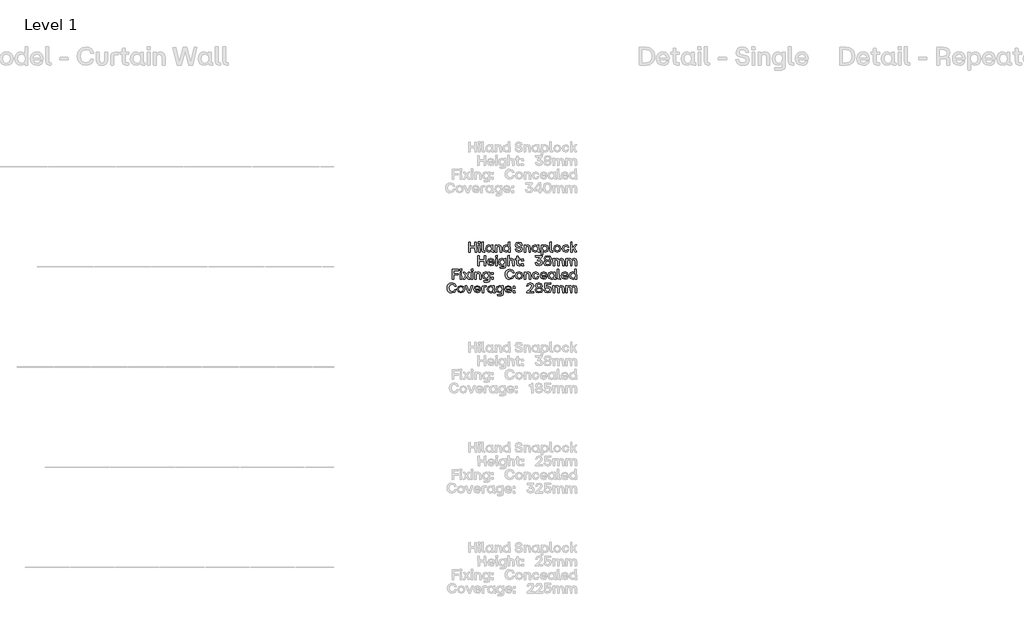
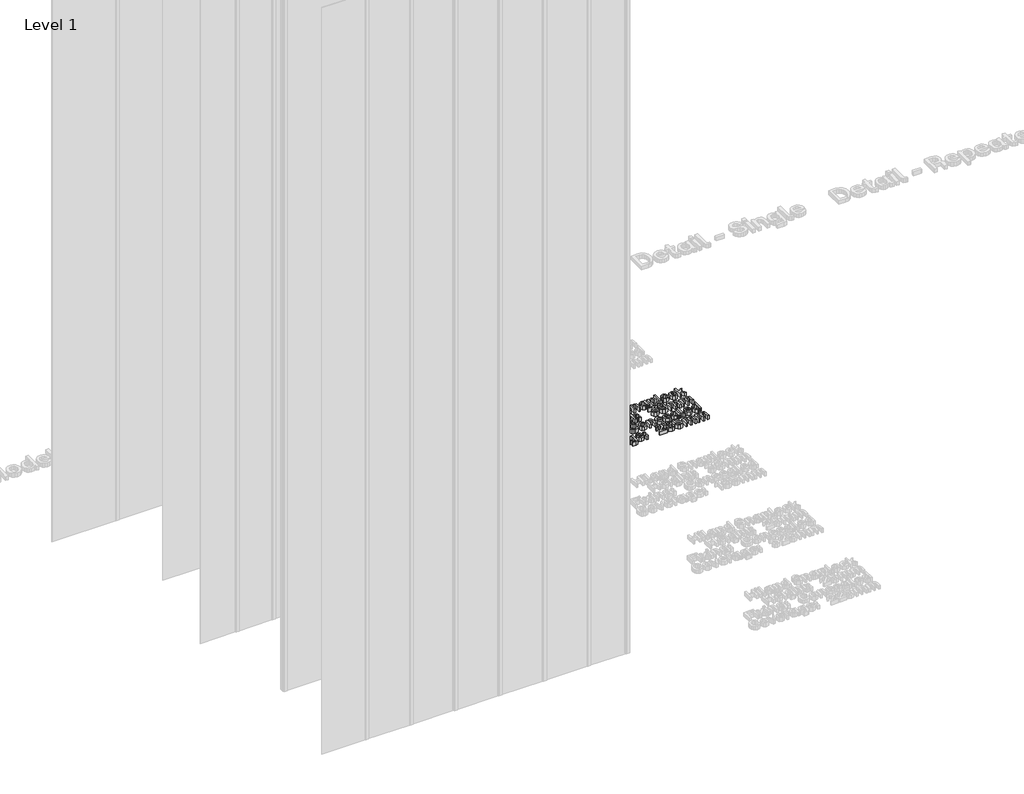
# One storey, part 21 of 64: 1 proxy.
"""IFC4 building model written with IfcOpenShell, lengths in millimetres."""

from ifc_helpers import new_model, si_unit, origin, origin_with_axes, place, context, project, spatial, polyline, outline, extrude, element, save

model = new_model("IFC4")

# Units and contexts
model_context = context("Model", 3, world=origin())
ifc_project = project(units=[si_unit("LENGTHUNIT", "METRE", prefix="MILLI")], contexts=[model_context])

# Site, building, storey
site = spatial("IfcSite", under=ifc_project)
building = spatial("IfcBuilding", under=site)
storey = spatial("IfcBuildingStorey", under=building, Name="Level 1", Elevation=0.0)

# Proxy
placement = place(None, origin())
element("IfcBuildingElementProxy", 1, Name="50mm", ObjectType="50mm", at=placement, inside=storey, context=model_context, shape_type="SweptSolid", body=[
    extrude(outline(polyline([(2488.8278866, -7433.5188866), (2488.1305548, -7411.5808277), (2464.2818068, -7411.5808277), (2464.2818068, -7432.8215548), (2456.7785164, -7433.5188866), (2456.0532913, -7384.2454206), (2463.542635, -7383.5201955), (2464.2818068, -7404.6075096), (2488.1305548, -7404.6075096), (2488.1305548, -7384.2454206), (2495.6198985, -7383.5201955), (2496.3172303, -7432.8215548), (2488.8278866, -7433.5188866)])), origin_with_axes(), (0.0, 0.0, 1.0), 20.0),
    extrude(outline(polyline([(2506.414595, -7433.5188866), (2505.6893699, -7397.8154977), (2512.8997809, -7397.1181659), (2513.5971127, -7432.8215548), (2506.414595, -7433.5188866)])), origin_with_axes(), (0.0, 0.0, 1.0), 20.0),
    extrude(outline(polyline([(2505.4801704, -7390.4516737), (2505.1315045, -7382.4044646), (2513.5273795, -7381.6652929), (2514.2665512, -7390.1030078), (2505.4801704, -7390.4516737)])), origin_with_axes(), (0.0, 0.0, 1.0), 20.0),
    extrude(outline(polyline([(2532.9968838, -7433.5188866), (2525.2983405, -7430.8690257), (2522.6484796, -7423.1565359), (2522.6484796, -7382.8228637), (2529.8588906, -7382.083692), (2530.5562224, -7427.2429003), (2537.2227146, -7427.2429003), (2537.9200464, -7432.8215548), (2532.9968838, -7433.5188866)])), origin_with_axes(), (0.0, 0.0, 1.0), 20.0),
    extrude(outline(polyline([(2558.0868825, -7433.9372857), (2546.3159214, -7428.8955767), (2541.9366776, -7415.3882594), (2546.3159214, -7401.7484491), (2558.0868825, -7396.6579269), (2564.7045614, -7398.2617901), (2569.6904839, -7402.6549805), (2570.0112565, -7397.8154977), (2577.1937742, -7397.1181659), (2577.9189993, -7427.2429003), (2581.8658973, -7427.2429003), (2582.5632291, -7432.8215548), (2576.5661755, -7433.5188866), (2571.9114857, -7432.2113895), (2570.3599224, -7428.288898), (2565.0044141, -7432.3334225), (2558.0868825, -7433.9372857)]), holes=[polyline([(2549.9978334, -7415.3882594), (2552.7522941, -7424.2792401), (2560.2765044, -7427.521833), (2567.6403283, -7424.2931867), (2570.2901892, -7415.3882594), (2567.6194084, -7406.392679), (2560.2765044, -7403.1152195), (2552.7522941, -7406.392679), (2549.9978334, -7415.3882594)])]), origin_with_axes(), (0.0, 0.0, 1.0), 20.0),
    extrude(outline(polyline([(2589.4249742, -7433.5188866), (2588.6997491, -7397.8154977), (2595.5614942, -7397.1181659), (2596.258826, -7402.6549805), (2601.4225681, -7398.1571903), (2608.0437337, -7396.6579269), (2617.6041528, -7400.8419178), (2620.916479, -7413.0870644), (2620.916479, -7432.8215548), (2613.6921214, -7433.5188866), (2612.9668963, -7413.0870644), (2611.0143672, -7405.7092939), (2604.8429806, -7403.3941522), (2598.6158075, -7405.7441604), (2596.6074919, -7413.0870644), (2596.6074919, -7432.8215548), (2589.4249742, -7433.5188866)])), origin_with_axes(), (0.0, 0.0, 1.0), 20.0),
    extrude(outline(polyline([(2643.7750158, -7433.9372857), (2632.0040548, -7428.8955767), (2627.624811, -7415.3882594), (2632.0040548, -7401.7484491), (2643.7750158, -7396.6579269), (2650.3926948, -7398.2617901), (2655.3786172, -7402.6549805), (2655.6993899, -7382.8228637), (2662.8819076, -7382.083692), (2663.6071326, -7432.8215548), (2656.7453876, -7433.5188866), (2656.0480558, -7428.0099653), (2650.6925474, -7432.3334225), (2643.7750158, -7433.9372857)]), holes=[polyline([(2635.6859668, -7415.3882594), (2638.4404275, -7424.2792401), (2645.9646377, -7427.521833), (2653.3284617, -7424.2931867), (2655.9783226, -7415.3882594), (2653.3075417, -7406.392679), (2645.9646377, -7403.1152195), (2638.4404275, -7406.392679), (2635.6859668, -7415.3882594)])]), origin_with_axes(), (0.0, 0.0, 1.0), 20.0),
    extrude(outline(polyline([(2707.7621831, -7433.9372857), (2694.1781594, -7429.823028), (2688.1950524, -7418.1078535), (2695.5588764, -7417.2989486), (2699.7219473, -7424.9417053), (2707.7621831, -7427.1034339), (2714.7145813, -7425.1160383), (2717.2040559, -7419.6001436), (2715.4816463, -7415.0186736), (2709.7147122, -7412.7383985), (2703.1179533, -7411.5808277), (2692.6370561, -7406.8180514), (2689.1434237, -7397.4668318), (2693.6202939, -7386.9022548), (2706.1164801, -7383.1017964), (2718.7102926, -7386.951068), (2724.3168404, -7397.8154977), (2716.9948564, -7398.610456), (2712.9712518, -7391.8672573), (2706.1164801, -7389.9635415), (2699.582481, -7391.706871), (2697.3300992, -7396.7973933), (2699.3384148, -7401.6299027), (2705.6283478, -7404.1612172), (2712.1832668, -7405.3048414), (2722.2806315, -7409.8932847), (2725.4046781, -7419.4606772), (2720.7116349, -7430.1019607), (2707.7621831, -7433.9372857)])), origin_with_axes(), (0.0, 0.0, 1.0), 20.0),
    extrude(outline(polyline([(2734.0236993, -7433.5188866), (2733.2984742, -7397.8154977), (2740.1602192, -7397.1181659), (2740.8575511, -7402.6549805), (2746.0212931, -7398.1571903), (2752.6424587, -7396.6579269), (2762.2028779, -7400.8419178), (2765.515204, -7413.0870644), (2765.515204, -7432.8215548), (2758.2908464, -7433.5188866), (2757.5656213, -7413.0870644), (2755.6130923, -7405.7092939), (2749.4417057, -7403.3941522), (2743.2145326, -7405.7441604), (2741.206217, -7413.0870644), (2741.206217, -7432.8215548), (2734.0236993, -7433.5188866)])), origin_with_axes(), (0.0, 0.0, 1.0), 20.0),
    extrude(outline(polyline([(2788.3737409, -7433.9372857), (2776.6027799, -7428.8955767), (2772.2235361, -7415.3882594), (2776.6027799, -7401.7484491), (2788.3737409, -7396.6579269), (2794.9914198, -7398.2617901), (2799.9773423, -7402.6549805), (2800.2981149, -7397.8154977), (2807.4806326, -7397.1181659), (2808.2058577, -7427.2429003), (2812.1527558, -7427.2429003), (2812.8500876, -7432.8215548), (2806.853034, -7433.5188866), (2802.1983441, -7432.2113895), (2800.6467808, -7428.288898), (2795.2912725, -7432.3334225), (2788.3737409, -7433.9372857)]), holes=[polyline([(2780.2846919, -7415.3882594), (2783.0391525, -7424.2792401), (2790.5633628, -7427.521833), (2797.9271868, -7424.2931867), (2800.5770477, -7415.3882594), (2797.9062668, -7406.392679), (2790.5633628, -7403.1152195), (2783.0391525, -7406.392679), (2780.2846919, -7415.3882594)])]), origin_with_axes(), (0.0, 0.0, 1.0), 20.0),
    extrude(outline(polyline([(2819.7118327, -7447.0750171), (2818.9866076, -7397.8154977), (2825.8483526, -7397.1181659), (2826.5456844, -7402.5852473), (2831.9011928, -7398.2617901), (2838.8187244, -7396.6579269), (2850.5896854, -7401.7135826), (2854.9689292, -7415.2487931), (2850.5896854, -7428.8607101), (2838.8187244, -7433.9372857), (2832.2010455, -7432.3334225), (2827.215123, -7427.9402321), (2826.8943503, -7446.3776853), (2819.7118327, -7447.0750171)]), holes=[polyline([(2826.6154176, -7415.2487931), (2829.2861985, -7424.2443735), (2836.6291025, -7427.521833), (2844.1533128, -7424.2443735), (2846.9077734, -7415.2487931), (2844.1533128, -7406.3578124), (2836.6291025, -7403.1152195), (2829.2652785, -7406.3368925), (2826.6154176, -7415.2487931)])]), origin_with_axes(), (0.0, 0.0, 1.0), 20.0),
    extrude(outline(polyline([(2872.1790784, -7433.5188866), (2864.4805352, -7430.8690257), (2861.8306743, -7423.1565359), (2861.8306743, -7382.8228637), (2869.0410852, -7382.083692), (2869.738417, -7427.2429003), (2876.4049092, -7427.2429003), (2877.102241, -7432.8215548), (2872.1790784, -7433.5188866)])), origin_with_axes(), (0.0, 0.0, 1.0), 20.0),
    extrude(outline(polyline([(2899.3192326, -7433.9372857), (2886.1605813, -7428.8118969), (2881.1188722, -7415.3882594), (2886.1745279, -7401.8530489), (2899.3192326, -7396.6579269), (2912.589457, -7401.8530489), (2917.6590593, -7415.3882594), (2912.589457, -7428.8118969), (2899.3192326, -7433.9372857)]), holes=[polyline([(2889.180028, -7415.3882594), (2891.8787021, -7424.2931867), (2899.3192326, -7427.521833), (2906.8573895, -7424.2792401), (2909.6118502, -7415.3882594), (2906.8713362, -7406.392679), (2899.3192326, -7403.1152195), (2891.8787021, -7406.392679), (2889.180028, -7415.3882594)])]), origin_with_axes(), (0.0, 0.0, 1.0), 20.0),
    extrude(outline(polyline([(2941.4101809, -7433.9372857), (2928.0771966, -7428.8955767), (2923.0703542, -7415.3882594), (2928.1469298, -7401.8530489), (2941.4101809, -7396.6579269), (2952.4838102, -7400.0957727), (2957.6998521, -7409.1820063), (2950.6846941, -7409.9490713), (2947.1143552, -7404.6493495), (2941.4101809, -7403.1152195), (2933.8511041, -7406.392679), (2931.13151, -7415.3882594), (2933.8650507, -7424.3141067), (2941.4101809, -7427.521833), (2947.2886881, -7426.0574362), (2950.266295, -7421.3155799), (2957.3511862, -7420.6461413), (2952.6930097, -7430.4994399), (2941.4101809, -7433.9372857)])), origin_with_axes(), (0.0, 0.0, 1.0), 20.0),
    extrude(outline(polyline([(2966.0957272, -7433.5188866), (2965.3705021, -7382.8228637), (2972.5809131, -7382.083692), (2973.2782449, -7412.8778649), (2988.5219183, -7397.4668318), (2996.4296611, -7397.1181659), (2983.7103288, -7412.0410667), (2997.7964315, -7432.6402485), (2990.1536748, -7433.5188866), (2978.4385003, -7417.2292154), (2973.2782449, -7422.2918444), (2973.2782449, -7432.8215548), (2966.0957272, -7433.5188866)])), origin_with_axes(), (0.0, 0.0, 1.0), 20.0),
    extrude(outline(polyline([(2534.3497075, -7501.3705811), (2533.6523757, -7479.4325222), (2509.8036276, -7479.4325222), (2509.8036276, -7500.6732493), (2502.3003373, -7501.3705811), (2501.5751122, -7452.0971151), (2509.0644559, -7451.37189), (2509.8036276, -7472.459204), (2533.6523757, -7472.459204), (2533.6523757, -7452.0971151), (2541.1417194, -7451.37189), (2541.8390512, -7500.6732493), (2534.3497075, -7501.3705811)])), origin_with_axes(), (0.0, 0.0, 1.0), 20.0),
    extrude(outline(polyline([(2567.4869153, -7501.7889802), (2554.0841978, -7496.7472711), (2549.0773554, -7483.2399539), (2554.0632779, -7469.586197), (2567.4869153, -7464.5096214), (2579.7669286, -7469.5164638), (2584.2647188, -7483.1702207), (2584.2647188, -7485.0809099), (2557.2082444, -7485.8200816), (2560.2765044, -7492.8631329), (2567.4869153, -7495.3735275), (2573.2747694, -7494.0974102), (2576.2732962, -7490.520098), (2583.3581874, -7489.9343393), (2578.7000109, -7498.6998002), (2567.4869153, -7501.7889802)]), holes=[polyline([(2557.2779776, -7480.0322275), (2576.4824957, -7480.0322275), (2573.8396081, -7473.3866554), (2567.4869153, -7470.966914), (2560.3950508, -7473.2681089), (2557.2779776, -7480.0322275)])]), origin_with_axes(), (0.0, 0.0, 1.0), 20.0),
    extrude(outline(polyline([(2591.1683037, -7458.3033682), (2590.8196378, -7450.2561591), (2599.2155129, -7449.5169873), (2599.9546846, -7457.9547023), (2591.1683037, -7458.3033682)])), origin_with_axes(), (0.0, 0.0, 1.0), 20.0),
    extrude(outline(polyline([(2592.1027284, -7501.3705811), (2591.3775033, -7465.6671922), (2598.5879142, -7464.9698603), (2599.2852461, -7500.6732493), (2592.1027284, -7501.3705811)])), origin_with_axes(), (0.0, 0.0, 1.0), 20.0),
    extrude(outline(polyline([(2613.7758012, -7514.9267115), (2613.0366294, -7509.348057), (2634.2773565, -7508.6507252), (2634.2773565, -7495.7919266), (2628.9706614, -7500.185117), (2622.3529825, -7501.7889802), (2610.5820215, -7496.7124045), (2606.2027777, -7483.1004875), (2610.5820215, -7469.565277), (2622.3529825, -7464.5096214), (2629.2705141, -7466.1134845), (2634.3470897, -7470.4369418), (2634.6260224, -7465.6671922), (2641.4598742, -7464.9698603), (2642.1850993, -7504.9269733), (2639.6049716, -7512.3675038), (2632.1853611, -7514.9267115), (2613.7758012, -7514.9267115)]), holes=[polyline([(2614.2639334, -7483.1004875), (2617.0183941, -7492.0960679), (2624.5426044, -7495.3735275), (2631.8855084, -7492.0960679), (2634.5562892, -7483.1004875), (2631.9064284, -7474.1885869), (2624.5426044, -7470.966914), (2617.0183941, -7474.2095069), (2614.2639334, -7483.1004875)])]), origin_with_axes(), (0.0, 0.0, 1.0), 20.0),
    extrude(outline(polyline([(2651.9059048, -7501.3705811), (2651.1806797, -7450.6745581), (2658.3910907, -7449.9353864), (2659.0884225, -7470.2277422), (2664.1754581, -7465.9391516), (2670.5246642, -7464.5096214), (2680.0850834, -7468.6936122), (2683.3974095, -7480.9387589), (2683.3974095, -7500.6732493), (2676.1730519, -7501.3705811), (2675.4478269, -7480.9387589), (2673.4952978, -7473.5609883), (2667.3239112, -7471.2458467), (2661.0967381, -7473.5958549), (2659.0884225, -7480.9387589), (2659.0884225, -7500.6732493), (2651.9059048, -7501.3705811)])), origin_with_axes(), (0.0, 0.0, 1.0), 20.0),
    extrude(outline(polyline([(2706.6743455, -7501.3705811), (2698.9618556, -7498.7207202), (2696.3119947, -7491.0082303), (2696.3119947, -7471.2458467), (2690.1057416, -7471.2458467), (2689.3805165, -7465.6671922), (2696.3119947, -7464.9698603), (2696.3119947, -7454.9561755), (2703.5363523, -7454.2309504), (2704.2336842, -7464.9698603), (2713.020065, -7464.9698603), (2713.7452901, -7470.506675), (2704.2336842, -7471.2458467), (2704.2336842, -7495.0945947), (2713.020065, -7495.0945947), (2713.7452901, -7500.6732493), (2706.6743455, -7501.3705811)])), origin_with_axes(), (0.0, 0.0, 1.0), 20.0),
    extrude(outline(polyline([(2721.150954, -7477.7310326), (2720.4536222, -7468.1078535), (2729.9373348, -7467.3686818), (2730.6625599, -7477.0337007), (2721.150954, -7477.7310326)])), origin_with_axes(), (0.0, 0.0, 1.0), 20.0),
    extrude(outline(polyline([(2720.8022881, -7501.0219152), (2720.4536222, -7491.747402), (2729.9373348, -7491.0082303), (2730.6625599, -7500.6732493), (2720.8022881, -7501.0219152)])), origin_with_axes(), (0.0, 0.0, 1.0), 20.0),
    extrude(outline(polyline([(2808.2755909, -7501.7889802), (2794.8798467, -7497.7235357), (2789.0571261, -7485.959548), (2796.42095, -7485.1506431), (2800.584021, -7492.7236666), (2808.2755909, -7494.9551284), (2815.4162687, -7492.5493336), (2818.0661296, -7485.959548), (2815.2977223, -7479.0908296), (2806.6298878, -7476.8942344), (2801.1906997, -7476.8942344), (2800.4933678, -7472.8078699), (2813.8542454, -7458.6520341), (2791.1491215, -7458.3731014), (2790.4238964, -7452.0971151), (2824.1329164, -7451.37189), (2824.8302482, -7456.1834795), (2811.9296096, -7470.0882759), (2822.6545729, -7475.2136647), (2826.2667517, -7485.959548), (2821.4202956, -7497.5352561), (2808.2755909, -7501.7889802)])), origin_with_axes(), (0.0, 0.0, 1.0), 20.0),
    extrude(outline(polyline([(2865.4289064, -7498.1768014), (2851.3846437, -7501.7889802), (2837.3124877, -7498.1768014), (2832.3753784, -7487.8702371), (2834.8509064, -7480.1368273), (2841.5104252, -7475.8063967), (2835.9457173, -7471.1691402), (2834.0908147, -7464.370155), (2838.7768845, -7454.5796163), (2851.3776704, -7450.9534909), (2863.9645096, -7454.5796163), (2868.6366328, -7464.370155), (2866.7817301, -7471.1691402), (2861.2170223, -7475.527464), (2867.8765411, -7480.1368273), (2870.352069, -7487.8702371), (2865.4289064, -7498.1768014)]), holes=[polyline([(2840.5760005, -7486.9358125), (2843.2781613, -7492.9502994), (2851.3846437, -7494.9551284), (2859.4597461, -7492.9502994), (2862.1514469, -7486.9358125), (2859.4597461, -7481.3606446), (2851.3846437, -7479.5022554), (2843.2781613, -7481.3606446), (2840.5760005, -7486.9358125)]), polyline([(2842.3193301, -7465.4579926), (2844.6553917, -7470.8065276), (2851.3846437, -7472.6684036), (2858.1138957, -7470.8065276), (2860.4499573, -7465.4579926), (2858.1138957, -7459.788685), (2851.3846437, -7457.8152359), (2844.6553917, -7459.788685), (2842.3193301, -7465.4579926)])]), origin_with_axes(), (0.0, 0.0, 1.0), 20.0),
    extrude(outline(polyline([(2878.6224244, -7501.3705811), (2877.8971993, -7465.6671922), (2884.7589443, -7464.9698603), (2885.4562761, -7470.506675), (2890.4421986, -7466.0088848), (2896.8925179, -7464.5096214), (2903.1789642, -7466.0088848), (2907.394335, -7470.506675), (2913.2170557, -7466.0646713), (2920.4623332, -7464.5096214), (2929.7368464, -7468.6796656), (2932.9445727, -7480.9387589), (2932.9445727, -7500.6732493), (2925.7341617, -7501.3705811), (2925.0368299, -7480.9387589), (2923.154034, -7473.5609883), (2917.1848737, -7471.2458467), (2911.2784732, -7473.5958549), (2909.3747574, -7480.9387589), (2909.3747574, -7500.6732493), (2902.1643464, -7501.3705811), (2901.4670146, -7480.9387589), (2899.5981653, -7473.5609883), (2893.6847915, -7471.2458467), (2887.7086579, -7473.5958549), (2885.804942, -7480.9387589), (2885.804942, -7500.6732493), (2878.6224244, -7501.3705811)])), origin_with_axes(), (0.0, 0.0, 1.0), 20.0),
    extrude(outline(polyline([(2941.9959397, -7501.3705811), (2941.2707146, -7465.6671922), (2948.1324596, -7464.9698603), (2948.8297914, -7470.506675), (2953.8157139, -7466.0088848), (2960.2660332, -7464.5096214), (2966.5524795, -7466.0088848), (2970.7678503, -7470.506675), (2976.590571, -7466.0646713), (2983.8358485, -7464.5096214), (2993.1103617, -7468.6796656), (2996.318088, -7480.9387589), (2996.318088, -7500.6732493), (2989.1076771, -7501.3705811), (2988.4103452, -7480.9387589), (2986.5275493, -7473.5609883), (2980.558389, -7471.2458467), (2974.6519885, -7473.5958549), (2972.7482727, -7480.9387589), (2972.7482727, -7500.6732493), (2965.5378617, -7501.3705811), (2964.8405299, -7480.9387589), (2962.9716806, -7473.5609883), (2957.0583069, -7471.2458467), (2951.0821732, -7473.5958549), (2949.1784574, -7480.9387589), (2949.1784574, -7500.6732493), (2941.9959397, -7501.3705811)])), origin_with_axes(), (0.0, 0.0, 1.0), 20.0),
    extrude(outline(polyline([(2374.6607219, -7569.2222755), (2373.9354969, -7519.9488095), (2405.5246281, -7519.2235844), (2406.2219599, -7525.527464), (2382.1640123, -7526.2247958), (2382.1640123, -7541.287163), (2404.0881245, -7541.287163), (2404.7854563, -7547.5631494), (2382.1640123, -7548.3023211), (2382.1640123, -7568.5249437), (2374.6607219, -7569.2222755)])), origin_with_axes(), (0.0, 0.0, 1.0), 20.0),
    extrude(outline(polyline([(2414.4783686, -7569.2222755), (2413.7531435, -7533.5188866), (2420.9635544, -7532.8215548), (2421.6608863, -7568.5249437), (2414.4783686, -7569.2222755)])), origin_with_axes(), (0.0, 0.0, 1.0), 20.0),
    extrude(outline(polyline([(2413.5439439, -7526.1550627), (2413.195278, -7518.1078535), (2421.5911531, -7517.3686818), (2422.3303248, -7525.8063967), (2413.5439439, -7526.1550627)])), origin_with_axes(), (0.0, 0.0, 1.0), 20.0),
    extrude(outline(polyline([(2428.5784179, -7569.2222755), (2441.3395901, -7550.7429824), (2429.1362833, -7533.658353), (2437.1277059, -7532.8215548), (2445.9140868, -7544.815662), (2454.1426022, -7533.2399539), (2462.2595445, -7532.8215548), (2450.6559431, -7549.9340775), (2463.696048, -7568.3436374), (2455.7046254, -7569.2222755), (2445.9838199, -7555.7916648), (2436.7093068, -7568.8038764), (2428.5784179, -7569.2222755)])), origin_with_axes(), (0.0, 0.0, 1.0), 20.0),
    extrude(outline(polyline([(2470.7112061, -7569.2222755), (2469.985981, -7533.5188866), (2477.196392, -7532.8215548), (2477.8937238, -7568.5249437), (2470.7112061, -7569.2222755)])), origin_with_axes(), (0.0, 0.0, 1.0), 20.0),
    extrude(outline(polyline([(2469.7767815, -7526.1550627), (2469.4281156, -7518.1078535), (2477.8239906, -7517.3686818), (2478.5631623, -7525.8063967), (2469.7767815, -7526.1550627)])), origin_with_axes(), (0.0, 0.0, 1.0), 20.0),
    extrude(outline(polyline([(2487.6703158, -7569.2222755), (2486.9450907, -7533.5188866), (2493.8068358, -7532.8215548), (2494.5041676, -7538.3583694), (2499.6679097, -7533.8605792), (2506.2890753, -7532.3613158), (2515.8494944, -7536.5453067), (2519.1618206, -7548.7904534), (2519.1618206, -7568.5249437), (2511.937463, -7569.2222755), (2511.2122379, -7548.7904534), (2509.2597088, -7541.4126828), (2503.0883222, -7539.0975411), (2496.8611491, -7541.4475493), (2494.8528335, -7548.7904534), (2494.8528335, -7568.5249437), (2487.6703158, -7569.2222755)])), origin_with_axes(), (0.0, 0.0, 1.0), 20.0),
    extrude(outline(polyline([(2533.4431761, -7582.778406), (2532.7040044, -7577.1997515), (2553.9447315, -7576.5024197), (2553.9447315, -7563.643621), (2548.6380364, -7568.0368114), (2542.0203574, -7569.6406746), (2530.2493964, -7564.564099), (2525.8701526, -7550.952182), (2530.2493964, -7537.4169715), (2542.0203574, -7532.3613158), (2548.9378891, -7533.965179), (2554.0144647, -7538.2886362), (2554.2933974, -7533.5188866), (2561.1272492, -7532.8215548), (2561.8524743, -7572.7786678), (2559.2723465, -7580.2191982), (2551.852736, -7582.778406), (2533.4431761, -7582.778406)]), holes=[polyline([(2533.9313084, -7550.952182), (2536.6857691, -7559.9477624), (2544.2099793, -7563.2252219), (2551.5528834, -7559.9477624), (2554.2236642, -7550.952182), (2551.5738033, -7542.0402814), (2544.2099793, -7538.8186084), (2536.6857691, -7542.0612013), (2533.9313084, -7550.952182)])]), origin_with_axes(), (0.0, 0.0, 1.0), 20.0),
    extrude(outline(polyline([(2571.1967206, -7545.582727), (2570.4993888, -7535.959548), (2579.9831014, -7535.2203762), (2580.7083265, -7544.8853952), (2571.1967206, -7545.582727)])), origin_with_axes(), (0.0, 0.0, 1.0), 20.0),
    extrude(outline(polyline([(2570.8480547, -7568.8736096), (2570.4993888, -7559.5990965), (2579.9831014, -7558.8599248), (2580.7083265, -7568.5249437), (2570.8480547, -7568.8736096)])), origin_with_axes(), (0.0, 0.0, 1.0), 20.0),
    extrude(outline(polyline([(2662.9516407, -7569.6406746), (2652.9449292, -7567.9269817), (2645.2394126, -7562.7859029), (2640.3232234, -7554.7160305), (2638.6844936, -7544.2159567), (2640.33717, -7533.8919591), (2645.2951992, -7525.7924501), (2653.0146624, -7520.5520015), (2662.9516407, -7518.8051853), (2677.1283965, -7523.4215219), (2684.0807947, -7535.7085085), (2676.7588107, -7536.5174134), (2671.5950686, -7528.3272513), (2662.9516407, -7525.8063967), (2651.2922528, -7530.743506), (2647.0524754, -7544.2159567), (2651.2713328, -7557.7999804), (2662.9516407, -7562.6673565), (2671.7659149, -7560.1813685), (2676.4519847, -7552.7234048), (2683.8715952, -7552.0679129), (2677.4073293, -7565.0382846), (2662.9516407, -7569.6406746)])), origin_with_axes(), (0.0, 0.0, 1.0), 20.0),
    extrude(outline(polyline([(2708.306102, -7569.6406746), (2695.1474506, -7564.5152858), (2690.1057416, -7551.0916483), (2695.1613973, -7537.5564378), (2708.306102, -7532.3613158), (2721.5763264, -7537.5564378), (2726.6459287, -7551.0916483), (2721.5763264, -7564.5152858), (2708.306102, -7569.6406746)]), holes=[polyline([(2698.1668974, -7551.0916483), (2700.8655715, -7559.9965756), (2708.306102, -7563.2252219), (2715.8442589, -7559.982629), (2718.5987195, -7551.0916483), (2715.8582055, -7542.0960679), (2708.306102, -7538.8186084), (2700.8655715, -7542.0960679), (2698.1668974, -7551.0916483)])]), origin_with_axes(), (0.0, 0.0, 1.0), 20.0),
    extrude(outline(polyline([(2734.916284, -7569.2222755), (2734.1910589, -7533.5188866), (2741.052804, -7532.8215548), (2741.7501358, -7538.3583694), (2746.9138779, -7533.8605792), (2753.5350435, -7532.3613158), (2763.0954626, -7536.5453067), (2766.4077887, -7548.7904534), (2766.4077887, -7568.5249437), (2759.1834311, -7569.2222755), (2758.4582061, -7548.7904534), (2756.505677, -7541.4126828), (2750.3342904, -7539.0975411), (2744.1071173, -7541.4475493), (2742.0988017, -7548.7904534), (2742.0988017, -7568.5249437), (2734.916284, -7569.2222755)])), origin_with_axes(), (0.0, 0.0, 1.0), 20.0),
    extrude(outline(polyline([(2791.4559475, -7569.6406746), (2778.1229632, -7564.5989656), (2773.1161208, -7551.0916483), (2778.1926964, -7537.5564378), (2791.4559475, -7532.3613158), (2802.5295767, -7535.7991616), (2807.7456187, -7544.8853952), (2800.7304607, -7545.6524602), (2797.1601218, -7540.3527384), (2791.4559475, -7538.8186084), (2783.8968707, -7542.0960679), (2781.1772766, -7551.0916483), (2783.9108173, -7560.0174956), (2791.4559475, -7563.2252219), (2797.3344547, -7561.7608251), (2800.3120616, -7557.0189688), (2807.3969528, -7556.3495302), (2802.7387763, -7566.2028288), (2791.4559475, -7569.6406746)])), origin_with_axes(), (0.0, 0.0, 1.0), 20.0),
    extrude(outline(polyline([(2831.6919932, -7569.6406746), (2818.2892758, -7564.5989656), (2813.2824333, -7551.0916483), (2818.2683558, -7537.4378914), (2831.6919932, -7532.3613158), (2843.9720065, -7537.3681582), (2848.4697967, -7551.0219152), (2848.4697967, -7552.9326043), (2821.4133223, -7553.6717761), (2824.4815823, -7560.7148274), (2831.6919932, -7563.2252219), (2837.4798473, -7561.9491047), (2840.4783741, -7558.3717925), (2847.5632653, -7557.7860338), (2842.9050888, -7566.5514947), (2831.6919932, -7569.6406746)]), holes=[polyline([(2821.4830555, -7547.883922), (2840.6875736, -7547.883922), (2838.0446861, -7541.2383498), (2831.6919932, -7538.8186084), (2824.6001287, -7541.1198034), (2821.4830555, -7547.883922)])]), origin_with_axes(), (0.0, 0.0, 1.0), 20.0),
    extrude(outline(polyline([(2869.5989507, -7569.6406746), (2857.8279896, -7564.5989656), (2853.4487458, -7551.0916483), (2857.8279896, -7537.4518381), (2869.5989507, -7532.3613158), (2876.2166296, -7533.965179), (2881.2025521, -7538.3583694), (2881.5233247, -7533.5188866), (2888.7058424, -7532.8215548), (2889.4310675, -7562.9462892), (2893.3779655, -7562.9462892), (2894.0752974, -7568.5249437), (2888.0782438, -7569.2222755), (2883.4235539, -7567.9147784), (2881.8719906, -7563.9922869), (2876.5164823, -7568.0368114), (2869.5989507, -7569.6406746)]), holes=[polyline([(2861.5099016, -7551.0916483), (2864.2643623, -7559.982629), (2871.7885726, -7563.2252219), (2879.1523965, -7559.9965756), (2881.8022574, -7551.0916483), (2879.1314766, -7542.0960679), (2871.7885726, -7538.8186084), (2864.2643623, -7542.0960679), (2861.5099016, -7551.0916483)])]), origin_with_axes(), (0.0, 0.0, 1.0), 20.0),
    extrude(outline(polyline([(2910.5602215, -7569.2222755), (2902.8616782, -7566.5724146), (2900.2118173, -7558.8599248), (2900.2118173, -7518.5262526), (2907.4222283, -7517.7870809), (2908.1195601, -7562.9462892), (2914.7860523, -7562.9462892), (2915.4833841, -7568.5249437), (2910.5602215, -7569.2222755)])), origin_with_axes(), (0.0, 0.0, 1.0), 20.0),
    extrude(outline(polyline([(2937.9095752, -7569.6406746), (2924.5068578, -7564.5989656), (2919.5000153, -7551.0916483), (2924.4859378, -7537.4378914), (2937.9095752, -7532.3613158), (2950.1895885, -7537.3681582), (2954.6873787, -7551.0219152), (2954.6873787, -7552.9326043), (2927.6309043, -7553.6717761), (2930.6991643, -7560.7148274), (2937.9095752, -7563.2252219), (2943.6974293, -7561.9491047), (2946.6959561, -7558.3717925), (2953.7808473, -7557.7860338), (2949.1226708, -7566.5514947), (2937.9095752, -7569.6406746)]), holes=[polyline([(2927.7006375, -7547.883922), (2946.9051556, -7547.883922), (2944.2622681, -7541.2383498), (2937.9095752, -7538.8186084), (2930.8177107, -7541.1198034), (2927.7006375, -7547.883922)])]), origin_with_axes(), (0.0, 0.0, 1.0), 20.0),
    extrude(outline(polyline([(2975.8165327, -7569.6406746), (2964.0455716, -7564.5989656), (2959.6663278, -7551.0916483), (2964.0455716, -7537.4518381), (2975.8165327, -7532.3613158), (2982.4342116, -7533.965179), (2987.4201341, -7538.3583694), (2987.7409067, -7518.5262526), (2994.9234244, -7517.7870809), (2995.6486495, -7568.5249437), (2988.7869044, -7569.2222755), (2988.0895726, -7563.7133542), (2982.7340643, -7568.0368114), (2975.8165327, -7569.6406746)]), holes=[polyline([(2967.7274836, -7551.0916483), (2970.4819443, -7559.982629), (2978.0061546, -7563.2252219), (2985.3699785, -7559.9965756), (2988.0198394, -7551.0916483), (2985.3490586, -7542.0960679), (2978.0061546, -7538.8186084), (2970.4819443, -7542.0960679), (2967.7274836, -7551.0916483)])]), origin_with_axes(), (0.0, 0.0, 1.0), 20.0),
    extrude(outline(polyline([(2372.8616059, -7637.4923691), (2362.8548943, -7635.7786761), (2355.1493778, -7630.6375973), (2350.2331885, -7622.5677249), (2348.5944587, -7612.0676511), (2350.2471351, -7601.7436536), (2355.2051643, -7593.6441446), (2362.9246275, -7588.403696), (2372.8616059, -7586.6568798), (2387.0383617, -7591.2732164), (2393.9907598, -7603.560203), (2386.6687758, -7604.3691079), (2381.5050337, -7596.1789457), (2372.8616059, -7593.6580912), (2361.2022179, -7598.5952004), (2356.9624405, -7612.0676511), (2361.181298, -7625.6516749), (2372.8616059, -7630.5190509), (2381.67588, -7628.033063), (2386.3619498, -7620.5750992), (2393.7815603, -7619.9196073), (2387.3172944, -7632.8899791), (2372.8616059, -7637.4923691)])), origin_with_axes(), (0.0, 0.0, 1.0), 20.0),
    extrude(outline(polyline([(2418.2160671, -7637.4923691), (2405.0574157, -7632.3669802), (2400.0157067, -7618.9433428), (2405.0713624, -7605.4081323), (2418.2160671, -7600.2130103), (2431.4862915, -7605.4081323), (2436.5558938, -7618.9433428), (2431.4862915, -7632.3669802), (2418.2160671, -7637.4923691)]), holes=[polyline([(2408.0768625, -7618.9433428), (2410.7755366, -7627.8482701), (2418.2160671, -7631.0769164), (2425.754224, -7627.8343234), (2428.5086847, -7618.9433428), (2425.7681706, -7609.9477624), (2418.2160671, -7606.6703029), (2410.7755366, -7609.9477624), (2408.0768625, -7618.9433428)])]), origin_with_axes(), (0.0, 0.0, 1.0), 20.0),
    extrude(outline(polyline([(2454.6586277, -7637.07397), (2440.2656991, -7601.5100474), (2447.5179499, -7600.6732493), (2458.9541917, -7630.5887841), (2469.7907281, -7601.2311147), (2477.1545521, -7600.6732493), (2464.0447139, -7636.5161045), (2454.6586277, -7637.07397)])), origin_with_axes(), (0.0, 0.0, 1.0), 20.0),
    extrude(outline(polyline([(2499.6504764, -7637.4923691), (2486.2477589, -7632.45066), (2481.2409165, -7618.9433428), (2486.226839, -7605.2895859), (2499.6504764, -7600.2130103), (2511.9304896, -7605.2198527), (2516.4282799, -7618.8736096), (2516.4282799, -7620.7842988), (2489.3718054, -7621.5234705), (2492.4400654, -7628.5665218), (2499.6504764, -7631.0769164), (2505.4383305, -7629.8007992), (2508.4368573, -7626.2234869), (2515.5217485, -7625.6377282), (2510.863572, -7634.4031891), (2499.6504764, -7637.4923691)]), holes=[polyline([(2489.4415386, -7615.7356165), (2508.6460568, -7615.7356165), (2506.0031692, -7609.0900443), (2499.6504764, -7606.6703029), (2492.5586118, -7608.9714978), (2489.4415386, -7615.7356165)])]), origin_with_axes(), (0.0, 0.0, 1.0), 20.0),
    extrude(outline(polyline([(2523.8897303, -7637.07397), (2523.1923985, -7610.9937601), (2525.8422594, -7603.3021902), (2533.5408026, -7600.6732493), (2543.6939538, -7600.6732493), (2544.3912856, -7606.6703029), (2531.1001412, -7607.3676347), (2531.1001412, -7636.3766382), (2523.8897303, -7637.07397)])), origin_with_axes(), (0.0, 0.0, 1.0), 20.0),
    extrude(outline(polyline([(2565.2275602, -7637.4923691), (2553.4565992, -7632.45066), (2549.0773554, -7618.9433428), (2553.4565992, -7605.3035325), (2565.2275602, -7600.2130103), (2571.8452392, -7601.8168734), (2576.8311616, -7606.2100639), (2577.1519343, -7601.3705811), (2584.334452, -7600.6732493), (2585.059677, -7630.7979836), (2589.0065751, -7630.7979836), (2589.7039069, -7636.3766382), (2583.7068533, -7637.07397), (2579.0521635, -7635.7664728), (2577.5006002, -7631.8439814), (2572.1450918, -7635.8885059), (2565.2275602, -7637.4923691)]), holes=[polyline([(2557.1385112, -7618.9433428), (2559.8929719, -7627.8343234), (2567.4171821, -7631.0769164), (2574.7810061, -7627.8482701), (2577.430867, -7618.9433428), (2574.7600861, -7609.9477624), (2567.4171821, -7606.6703029), (2559.8929719, -7609.9477624), (2557.1385112, -7618.9433428)])]), origin_with_axes(), (0.0, 0.0, 1.0), 20.0),
    extrude(outline(polyline([(2601.2796151, -7650.6301005), (2600.5404433, -7645.0514459), (2621.7811704, -7644.3541141), (2621.7811704, -7631.4953155), (2616.4744753, -7635.8885059), (2609.8567964, -7637.4923691), (2598.0858353, -7632.4157935), (2593.7065915, -7618.8038764), (2598.0858353, -7605.2686659), (2609.8567964, -7600.2130103), (2616.774328, -7601.8168734), (2621.8509036, -7606.1403307), (2622.1298363, -7601.3705811), (2628.9636881, -7600.6732493), (2629.6889132, -7640.6303622), (2627.1087855, -7648.0708927), (2619.689175, -7650.6301005), (2601.2796151, -7650.6301005)]), holes=[polyline([(2601.7677473, -7618.8038764), (2604.522208, -7627.7994568), (2612.0464183, -7631.0769164), (2619.3893223, -7627.7994568), (2622.0601031, -7618.8038764), (2619.4102422, -7609.8919758), (2612.0464183, -7606.6703029), (2604.522208, -7609.9128958), (2601.7677473, -7618.8038764)])]), origin_with_axes(), (0.0, 0.0, 1.0), 20.0),
    extrude(outline(polyline([(2654.9602181, -7637.4923691), (2641.5575007, -7632.45066), (2636.5506582, -7618.9433428), (2641.5365807, -7605.2895859), (2654.9602181, -7600.2130103), (2667.2402314, -7605.2198527), (2671.7380216, -7618.8736096), (2671.7380216, -7620.7842988), (2644.6815472, -7621.5234705), (2647.7498072, -7628.5665218), (2654.9602181, -7631.0769164), (2660.7480722, -7629.8007992), (2663.746599, -7626.2234869), (2670.8314902, -7625.6377282), (2666.1733137, -7634.4031891), (2654.9602181, -7637.4923691)]), holes=[polyline([(2644.7512804, -7615.7356165), (2663.9557985, -7615.7356165), (2661.312911, -7609.0900443), (2654.9602181, -7606.6703029), (2647.8683536, -7608.9714978), (2644.7512804, -7615.7356165)])]), origin_with_axes(), (0.0, 0.0, 1.0), 20.0),
    extrude(outline(polyline([(2679.199472, -7613.4344215), (2678.5021402, -7603.8112424), (2687.9858529, -7603.0720707), (2688.711078, -7612.7370896), (2679.199472, -7613.4344215)])), origin_with_axes(), (0.0, 0.0, 1.0), 20.0),
    extrude(outline(polyline([(2678.8508061, -7636.7253041), (2678.5021402, -7627.4507909), (2687.9858529, -7626.7116192), (2688.711078, -7636.3766382), (2678.8508061, -7636.7253041)])), origin_with_axes(), (0.0, 0.0, 1.0), 20.0),
    extrude(outline(polyline([(2746.687245, -7637.07397), (2745.9620199, -7632.2902737), (2763.3255821, -7616.2934819), (2770.4732332, -7608.3787658), (2772.4606289, -7601.0916483), (2770.4802065, -7595.4118807), (2764.5389395, -7593.5186248), (2757.6702211, -7595.5966736), (2754.818134, -7602.1655393), (2747.3845768, -7602.8628712), (2751.9730202, -7590.6665377), (2764.5389395, -7586.6568798), (2776.3656871, -7590.5270714), (2780.6891443, -7601.0916483), (2778.0044168, -7610.8682404), (2768.8345035, -7621.2724311), (2759.3786841, -7629.7798792), (2782.1117012, -7630.0588119), (2782.809033, -7636.3766382), (2746.687245, -7637.07397)])), origin_with_axes(), (0.0, 0.0, 1.0), 20.0),
    extrude(outline(polyline([(2821.692255, -7633.8801903), (2807.6479923, -7637.4923691), (2793.5758362, -7633.8801903), (2788.638727, -7623.573626), (2791.1142549, -7615.8402162), (2797.7737738, -7611.5097857), (2792.2090659, -7606.8725291), (2790.3541633, -7600.0735439), (2795.0402331, -7590.2830052), (2807.6410189, -7586.6568798), (2820.2278582, -7590.2830052), (2824.8999814, -7600.0735439), (2823.0450787, -7606.8725291), (2817.4803708, -7611.2308529), (2824.1398897, -7615.8402162), (2826.6154176, -7623.573626), (2821.692255, -7633.8801903)]), holes=[polyline([(2796.8393491, -7622.6392014), (2799.5415099, -7628.6536883), (2807.6479923, -7630.6585173), (2815.7230947, -7628.6536883), (2818.4147955, -7622.6392014), (2815.7230947, -7617.0640336), (2807.6479923, -7615.2056443), (2799.5415099, -7617.0640336), (2796.8393491, -7622.6392014)]), polyline([(2798.5826787, -7601.1613815), (2800.9187403, -7606.5099165), (2807.6479923, -7608.3717925), (2814.3772443, -7606.5099165), (2816.7133059, -7601.1613815), (2814.3772443, -7595.4920739), (2807.6479923, -7593.5186248), (2800.9187403, -7595.4920739), (2798.5826787, -7601.1613815)])]), origin_with_axes(), (0.0, 0.0, 1.0), 20.0),
    extrude(outline(polyline([(2851.8030428, -7637.4923691), (2838.6025515, -7633.7965104), (2832.7937775, -7623.0854938), (2840.1576015, -7622.2905355), (2844.365999, -7628.7234215), (2851.8030428, -7630.6585173), (2859.2087066, -7627.9737898), (2861.802781, -7620.3658997), (2859.2226533, -7613.0648356), (2851.6635764, -7610.575361), (2841.3012256, -7614.5083125), (2836.4617428, -7614.2293797), (2837.5077406, -7587.800504), (2867.1443427, -7587.0752789), (2867.8695678, -7593.3791585), (2844.1602861, -7594.0764903), (2843.3653278, -7606.740036), (2848.5395299, -7604.5434408), (2854.2437041, -7603.7415092), (2865.7984923, -7608.1695663), (2870.0034031, -7620.3658997), (2865.1918136, -7632.9736589), (2851.8030428, -7637.4923691)])), origin_with_axes(), (0.0, 0.0, 1.0), 20.0),
    extrude(outline(polyline([(2878.6224244, -7637.07397), (2877.8971993, -7601.3705811), (2884.7589443, -7600.6732493), (2885.4562761, -7606.2100639), (2890.4421986, -7601.7122737), (2896.8925179, -7600.2130103), (2903.1789642, -7601.7122737), (2907.394335, -7606.2100639), (2913.2170557, -7601.7680602), (2920.4623332, -7600.2130103), (2929.7368464, -7604.3830545), (2932.9445727, -7616.6421478), (2932.9445727, -7636.3766382), (2925.7341617, -7637.07397), (2925.0368299, -7616.6421478), (2923.154034, -7609.2643772), (2917.1848737, -7606.9492356), (2911.2784732, -7609.2992438), (2909.3747574, -7616.6421478), (2909.3747574, -7636.3766382), (2902.1643464, -7637.07397), (2901.4670146, -7616.6421478), (2899.5981653, -7609.2643772), (2893.6847915, -7606.9492356), (2887.7086579, -7609.2992438), (2885.804942, -7616.6421478), (2885.804942, -7636.3766382), (2878.6224244, -7637.07397)])), origin_with_axes(), (0.0, 0.0, 1.0), 20.0),
    extrude(outline(polyline([(2941.9959397, -7637.07397), (2941.2707146, -7601.3705811), (2948.1324596, -7600.6732493), (2948.8297914, -7606.2100639), (2953.8157139, -7601.7122737), (2960.2660332, -7600.2130103), (2966.5524795, -7601.7122737), (2970.7678503, -7606.2100639), (2976.590571, -7601.7680602), (2983.8358485, -7600.2130103), (2993.1103617, -7604.3830545), (2996.318088, -7616.6421478), (2996.318088, -7636.3766382), (2989.1076771, -7637.07397), (2988.4103452, -7616.6421478), (2986.5275493, -7609.2643772), (2980.558389, -7606.9492356), (2974.6519885, -7609.2992438), (2972.7482727, -7616.6421478), (2972.7482727, -7636.3766382), (2965.5378617, -7637.07397), (2964.8405299, -7616.6421478), (2962.9716806, -7609.2643772), (2957.0583069, -7606.9492356), (2951.0821732, -7609.2992438), (2949.1784574, -7616.6421478), (2949.1784574, -7636.3766382), (2941.9959397, -7637.07397)])), origin_with_axes(), (0.0, 0.0, 1.0), 20.0),
])

save(model, "model.ifc")
